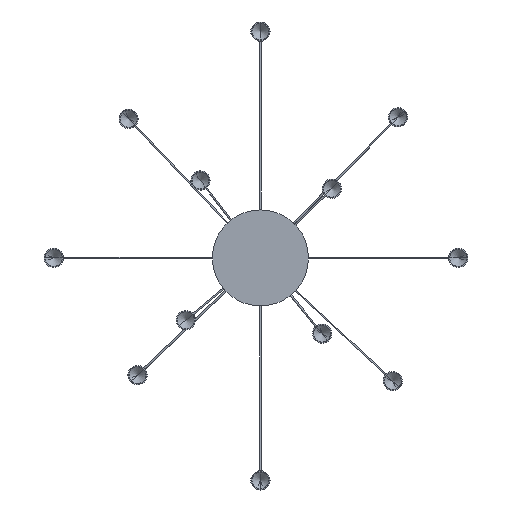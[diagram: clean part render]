
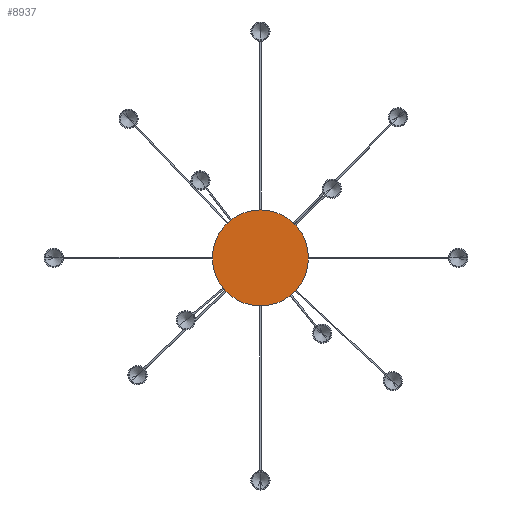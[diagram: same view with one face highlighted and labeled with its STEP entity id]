
A CAD part, front view. The second image highlights one B-rep face of the part: STEP entity #8937.
In plain terms, the highlighted planar face has unit normal (0, -1, 0).
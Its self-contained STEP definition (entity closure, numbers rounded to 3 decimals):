
#1087 = CARTESIAN_POINT ( 'NONE',  ( 0., -21.5, 125. ) ) ;
#1575 = ORIENTED_EDGE ( 'NONE', *, *, #4170, .T. ) ;
#1741 = CIRCLE ( 'NONE', #7251, 125. ) ;
#1750 = DIRECTION ( 'NONE',  ( 0., -1., 0. ) ) ;
#2597 = CARTESIAN_POINT ( 'NONE',  ( 125., -21.5, 0. ) ) ;
#3660 = CIRCLE ( 'NONE', #9200, 125. ) ;
#4170 = EDGE_CURVE ( 'NONE', #6642, #5229, #3660, .T. ) ;
#4187 = DIRECTION ( 'NONE',  ( 0., 0., -1. ) ) ;
#4764 = DIRECTION ( 'NONE',  ( 0., 0., -1. ) ) ;
#5158 = CARTESIAN_POINT ( 'NONE',  ( 0., -21.5, -125. ) ) ;
#5229 = VERTEX_POINT ( 'NONE', #5158 ) ;
#5509 = CARTESIAN_POINT ( 'NONE',  ( 0., -21.5, 0. ) ) ;
#5542 = EDGE_CURVE ( 'NONE', #5229, #6642, #1741, .T. ) ;
#6642 = VERTEX_POINT ( 'NONE', #1087 ) ;
#6786 = EDGE_LOOP ( 'NONE', ( #7495, #1575 ) ) ;
#6974 = DIRECTION ( 'NONE',  ( 0., 0., -1. ) ) ;
#7251 = AXIS2_PLACEMENT_3D ( 'NONE', #5509, #7771, #6974 ) ;
#7495 = ORIENTED_EDGE ( 'NONE', *, *, #5542, .T. ) ;
#7771 = DIRECTION ( 'NONE',  ( 0., -1., 0. ) ) ;
#8514 = CARTESIAN_POINT ( 'NONE',  ( 0., -21.5, 0. ) ) ;
#8723 = DIRECTION ( 'NONE',  ( 0., -1., 0. ) ) ;
#8821 = FACE_OUTER_BOUND ( 'NONE', #6786, .T. ) ;
#8937 = ADVANCED_FACE ( 'NONE', ( #8821 ), #9515, .T. ) ;
#9096 = AXIS2_PLACEMENT_3D ( 'NONE', #2597, #8723, #4187 ) ;
#9200 = AXIS2_PLACEMENT_3D ( 'NONE', #8514, #1750, #4764 ) ;
#9515 = PLANE ( 'NONE',  #9096 ) ;
